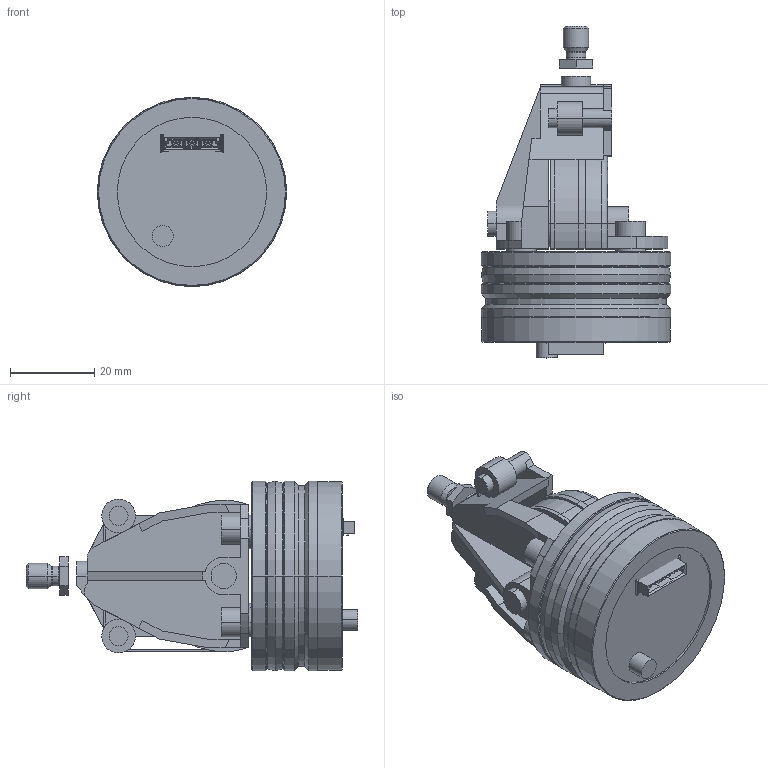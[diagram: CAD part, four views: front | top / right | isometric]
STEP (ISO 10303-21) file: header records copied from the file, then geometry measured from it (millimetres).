
FILE_DESCRIPTION (( 'STEP AP214' ), '1' );
FILE_NAME ('SGH10-1m Dummy_209705~0.STEP', '2016-06-07T06:51:32', ( '' ), ( '' ), 'SwSTEP 2.0', 'SolidWorks 2013', '' );
FILE_SCHEMA (( 'AUTOMOTIVE_DESIGN' ));
Length unit declared in the file: millimetre
Products named in the file (1): SGH10-1m Dummy_209705~0
Bounding box: 45 x 78.9 x 45 mm (x, y, z)
Volume: 51695.5 mm3; surface area: 20592.7 mm2
Topology: 7 solids, 7 shells, 799 faces, 2086 edges, 1342 vertices
Faces by surface type: plane 520, cylinder 225, cone 42, torus 7, bspline 5
Entity records: 33561 total; most frequent: CARTESIAN_POINT 4760, ORIENTED_EDGE 4172, DIRECTION 4116, EDGE_CURVE 2086, VECTOR 1520, LINE 1520, VERTEX_POINT 1342, AXIS2_PLACEMENT_3D 1298
